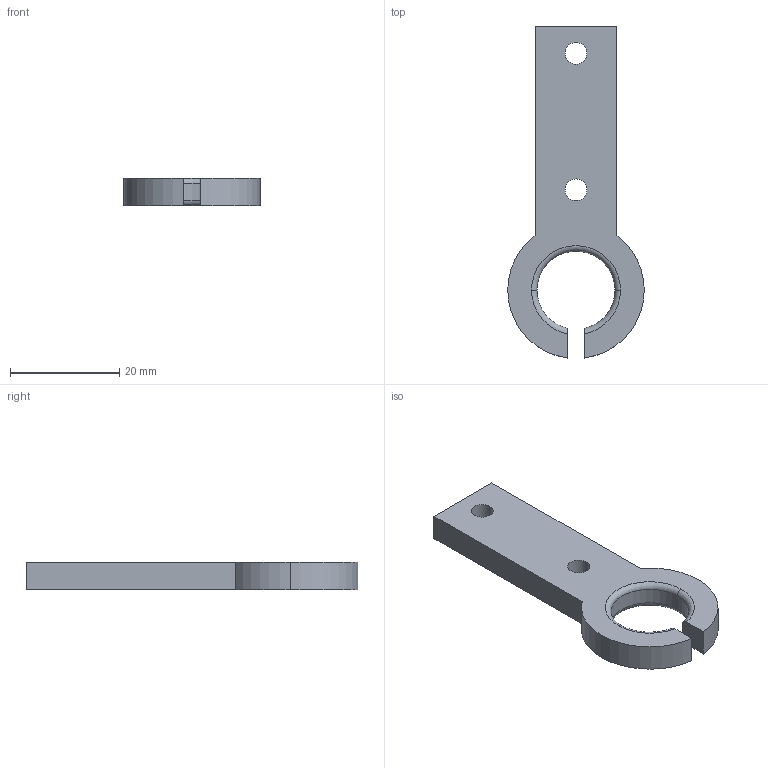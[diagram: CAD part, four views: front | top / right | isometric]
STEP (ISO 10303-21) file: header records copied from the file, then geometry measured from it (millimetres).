
FILE_DESCRIPTION(('STEP AP203'),'1');
FILE_NAME('SUPPORT_SERINGUE_10cc_Tobeca3.stp','2019-07-24T12:04:14',(' '),(' '),'Spatial InterOp 3D',' ',' ');
FILE_SCHEMA(('CONFIG_CONTROL_DESIGN'));
Length unit declared in the file: metre
Products named in the file (1): 1
Bounding box: 25 x 60.79 x 5 mm (x, y, z)
Volume: 4177.3 mm3; surface area: 2787.8 mm2
Topology: 1 solids, 1 shells, 24 faces, 62 edges, 40 vertices
Faces by surface type: cylinder 11, plane 7, torus 6
Entity records: 874 total; most frequent: CARTESIAN_POINT 211, DIRECTION 140, ORIENTED_EDGE 124, EDGE_CURVE 62, AXIS2_PLACEMENT_3D 57, VERTEX_POINT 40, CIRCLE 32, EDGE_LOOP 28
